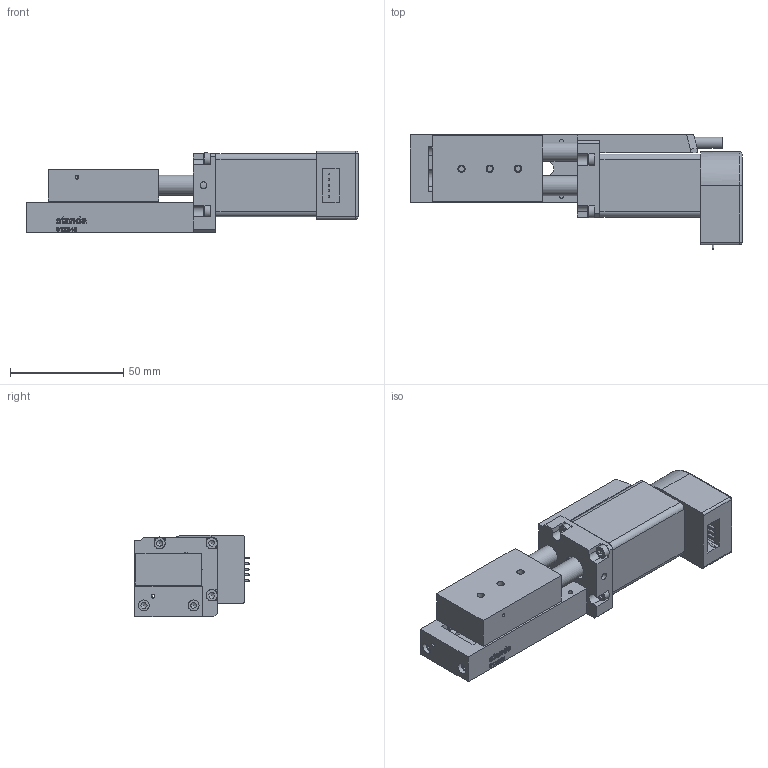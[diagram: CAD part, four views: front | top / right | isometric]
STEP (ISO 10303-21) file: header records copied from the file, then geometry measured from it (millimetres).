
FILE_DESCRIPTION(/* description */ (''),/* implementation_level */ '2;1');
FILE_NAME(/* name */ 'U:\KONSTRUKTORIAI\! ! ! BENDRAS ! ! !\Darius\Darius\Schemos\08\8MT173-25\step\Assembly1.stp',/* time_stamp */ '2016-02-03T08:50:01+02:00',/* author */ ('dsgn32'),/* organization */ (''),/* preprocessor_version */ 'ST-DEVELOPER v15.2',/* originating_system */ 'Autodesk Inventor 2014',/* authorisation */ '');
FILE_SCHEMA (('CONFIG_CONTROL_DESIGN'));
Length unit declared in the file: millimetre
Products named in the file (2): Part2; Assembly1
Bounding box: 146.8 x 50.6 x 36 mm (x, y, z)
Volume: 109231.5 mm3; surface area: 40238.6 mm2
Topology: 2 solids, 22 shells, 740 faces, 1903 edges, 1260 vertices
Faces by surface type: plane 416, cylinder 141, bspline 116, cone 42, torus 18, sphere 7
Full cylindrical faces by diameter (mm): 0.8 x5, 1.567 x6, 2.013 x18, 2.5 x5, 2.9 x2, 3 x16, 3.2 x12, 3.242 x6, 4.8 x2, 4.917 x2, 5 x2, 5.1 x13, 5.2 x2, 6 x1, 6.5 x1, 7.1 x1, 8 x1, 8.3 x1, 9 x1, 11 x3, 14.5 x1, 22 x1
Entity records: 21659 total; most frequent: CARTESIAN_POINT 5813, ORIENTED_EDGE 3260, DIRECTION 2843, EDGE_CURVE 1627, VERTEX_POINT 1146, EDGE_LOOP 1009, AXIS2_PLACEMENT_3D 967, LINE 909
